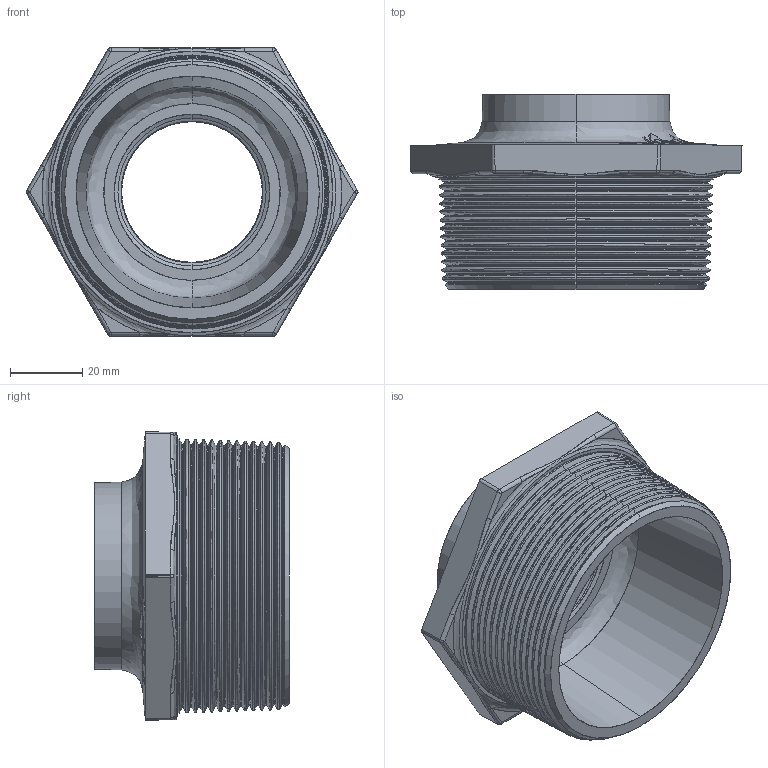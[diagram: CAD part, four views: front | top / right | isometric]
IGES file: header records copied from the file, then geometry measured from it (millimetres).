
Start section: SolidWorks IGES file using analytic representation for surfaces
Global section: file name: C:\Users\Joel Rosa\Desktop\Tubulação\12-01-OK\12-01-049.IGS; native system: SolidWorks 2011; preprocessor: SolidWorks 2011; author: Joel Rosa; date: 121203.202316; units: millimetre
Bounding box: 92.07 x 54 x 80 mm (x, y, z)
Surface area: 33640.4 mm2 (no closed solid volume)
Topology: 0 solids, 0 shells, 441 faces, 4177 edges, 4177 vertices
Faces by surface type: bspline 297, revolution 144
